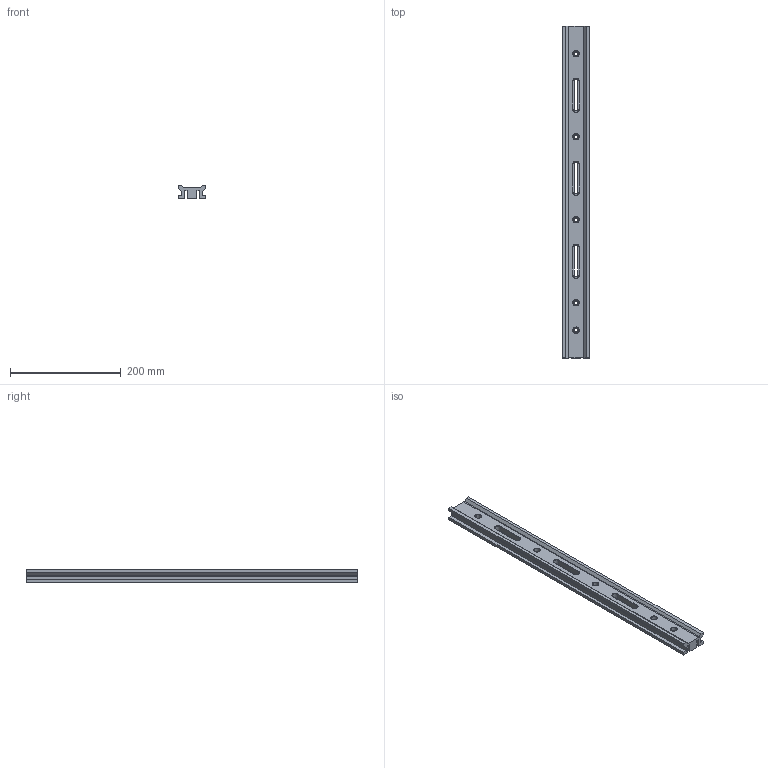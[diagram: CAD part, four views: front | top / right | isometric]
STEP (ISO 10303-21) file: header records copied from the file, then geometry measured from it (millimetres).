
FILE_DESCRIPTION((''),'2;1');
FILE_NAME('OOM-G600','2020-11-03T',('Administrator'),(''),'CREO PARAMETRIC BY PTC INC, 2015290','CREO PARAMETRIC BY PTC INC, 2015290','');
FILE_SCHEMA(('CONFIG_CONTROL_DESIGN'));
Length unit declared in the file: millimetre
Products named in the file (1): OOM-G600
Bounding box: 50 x 600 x 25 mm (x, y, z)
Volume: 432519.1 mm3; surface area: 148627.3 mm2
Topology: 1 solids, 1 shells, 104 faces, 260 edges, 166 vertices
Faces by surface type: plane 46, cylinder 42, torus 16
Entity records: 3188 total; most frequent: DIRECTION 578, CARTESIAN_POINT 530, ORIENTED_EDGE 520, EDGE_CURVE 260, AXIS2_PLACEMENT_3D 214, VERTEX_POINT 166, VECTOR 150, LINE 150
